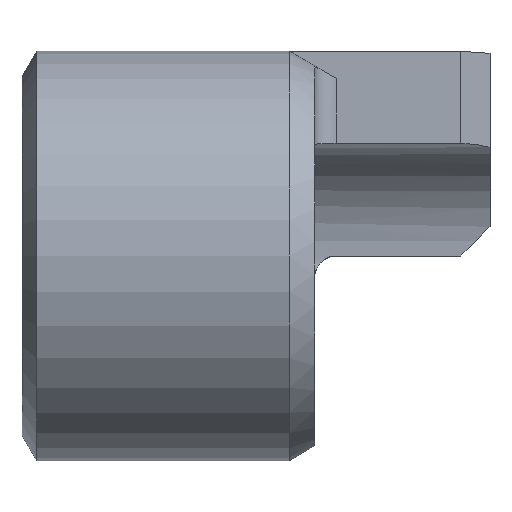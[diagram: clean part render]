
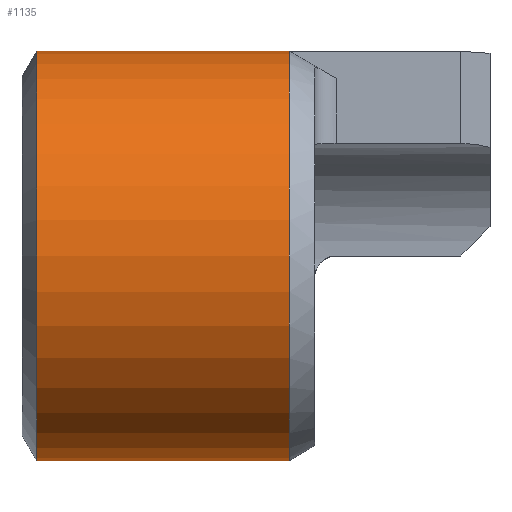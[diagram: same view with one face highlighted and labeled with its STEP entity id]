
A CAD part, left-side view. The second image highlights one B-rep face of the part: STEP entity #1135.
In plain terms, the highlighted cylindrical face has radius 1.4 mm (diameter 2.8 mm), a partial arc.
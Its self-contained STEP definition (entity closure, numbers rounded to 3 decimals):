
#6 = CARTESIAN_POINT ( 'NONE',  ( 0., 0.173, 1.4 ) ) ;
#30 = EDGE_LOOP ( 'NONE', ( #464, #96, #1206, #1075 ) ) ;
#36 = EDGE_CURVE ( 'NONE', #1294, #385, #351, .T. ) ;
#65 = CARTESIAN_POINT ( 'NONE',  ( 0., 2., 0. ) ) ;
#96 = ORIENTED_EDGE ( 'NONE', *, *, #781, .T. ) ;
#110 = CIRCLE ( 'NONE', #959, 1.4 ) ;
#187 = DIRECTION ( 'NONE',  ( 0., 0., 1. ) ) ;
#189 = DIRECTION ( 'NONE',  ( 0., -1., 0. ) ) ;
#201 = VERTEX_POINT ( 'NONE', #710 ) ;
#305 = EDGE_CURVE ( 'NONE', #525, #1294, #1090, .T. ) ;
#351 = CIRCLE ( 'NONE', #954, 1.4 ) ;
#367 = DIRECTION ( 'NONE',  ( 0., -1., 0. ) ) ;
#385 = VERTEX_POINT ( 'NONE', #6 ) ;
#402 = VECTOR ( 'NONE', #1255, 1000. ) ;
#464 = ORIENTED_EDGE ( 'NONE', *, *, #579, .F. ) ;
#486 = CARTESIAN_POINT ( 'NONE',  ( 0., 0.173, 0. ) ) ;
#525 = VERTEX_POINT ( 'NONE', #897 ) ;
#531 = CARTESIAN_POINT ( 'NONE',  ( 0., 1.9, 0. ) ) ;
#547 = AXIS2_PLACEMENT_3D ( 'NONE', #65, #1378, #783 ) ;
#579 = EDGE_CURVE ( 'NONE', #201, #385, #829, .T. ) ;
#599 = DIRECTION ( 'NONE',  ( 0., 1., 0. ) ) ;
#632 = CARTESIAN_POINT ( 'NONE',  ( 0., 2., 1.4 ) ) ;
#672 = VECTOR ( 'NONE', #367, 1000. ) ;
#710 = CARTESIAN_POINT ( 'NONE',  ( 0., 1.9, 1.4 ) ) ;
#781 = EDGE_CURVE ( 'NONE', #201, #525, #110, .T. ) ;
#783 = DIRECTION ( 'NONE',  ( 0., 0., -1. ) ) ;
#829 = LINE ( 'NONE', #632, #402 ) ;
#897 = CARTESIAN_POINT ( 'NONE',  ( 0., 1.9, -1.4 ) ) ;
#954 = AXIS2_PLACEMENT_3D ( 'NONE', #486, #599, #1439 ) ;
#959 = AXIS2_PLACEMENT_3D ( 'NONE', #531, #189, #187 ) ;
#1032 = FACE_OUTER_BOUND ( 'NONE', #30, .T. ) ;
#1075 = ORIENTED_EDGE ( 'NONE', *, *, #36, .T. ) ;
#1090 = LINE ( 'NONE', #1311, #672 ) ;
#1135 = ADVANCED_FACE ( 'NONE', ( #1032 ), #1180, .T. ) ;
#1180 = CYLINDRICAL_SURFACE ( 'NONE', #547, 1.4 ) ;
#1206 = ORIENTED_EDGE ( 'NONE', *, *, #305, .T. ) ;
#1216 = CARTESIAN_POINT ( 'NONE',  ( 0., 0.173, -1.4 ) ) ;
#1255 = DIRECTION ( 'NONE',  ( 0., -1., 0. ) ) ;
#1294 = VERTEX_POINT ( 'NONE', #1216 ) ;
#1311 = CARTESIAN_POINT ( 'NONE',  ( 0., 2., -1.4 ) ) ;
#1378 = DIRECTION ( 'NONE',  ( 0., -1., 0. ) ) ;
#1439 = DIRECTION ( 'NONE',  ( 0., 0., 1. ) ) ;
